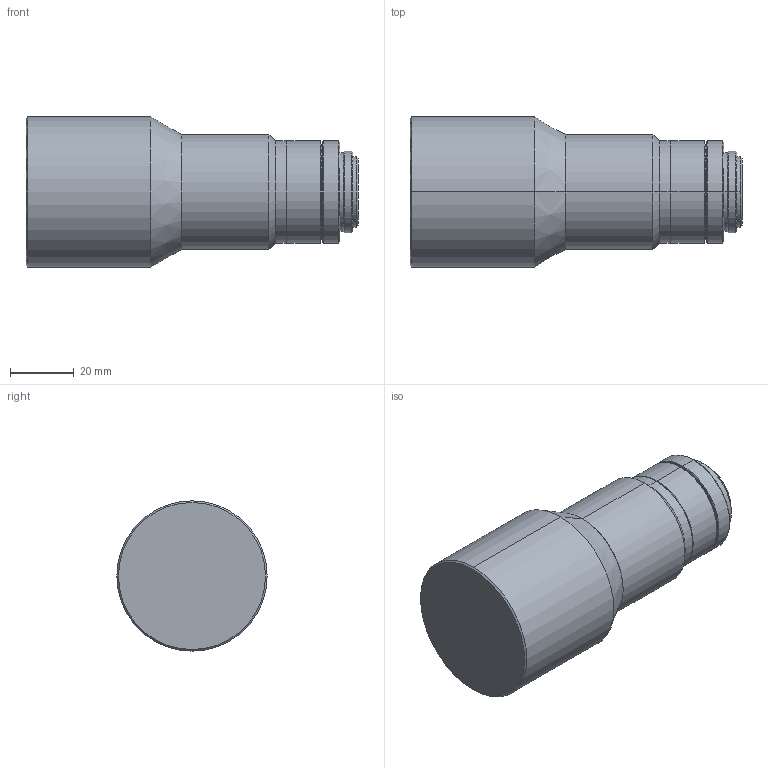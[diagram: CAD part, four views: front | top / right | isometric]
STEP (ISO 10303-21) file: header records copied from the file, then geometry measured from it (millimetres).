
FILE_DESCRIPTION (( 'STEP AP214' ), '1' );
FILE_NAME ('VS-TCM025-150.STEP', '2020-08-17T06:11:50', ( '' ), ( '' ), 'SwSTEP 2.0', 'SolidWorks 2020', '' );
FILE_SCHEMA (( 'AUTOMOTIVE_DESIGN' ));
Length unit declared in the file: millimetre
Products named in the file (1): VS-TCM025-150
Bounding box: 103.85 x 47 x 47 mm (x, y, z)
Volume: 129159.5 mm3; surface area: 15744.5 mm2
Topology: 1 solids, 1 shells, 51 faces, 100 edges, 56 vertices
Faces by surface type: cone 26, cylinder 18, plane 7
Entity records: 1328 total; most frequent: DIRECTION 260, CARTESIAN_POINT 208, ORIENTED_EDGE 200, AXIS2_PLACEMENT_3D 108, EDGE_CURVE 100, VERTEX_POINT 56, CIRCLE 56, EDGE_LOOP 56
